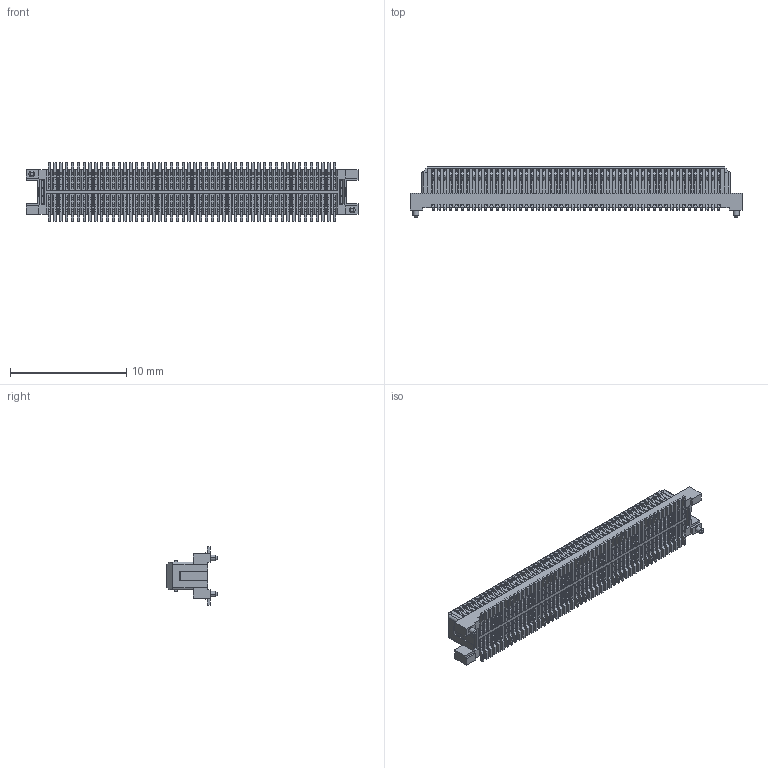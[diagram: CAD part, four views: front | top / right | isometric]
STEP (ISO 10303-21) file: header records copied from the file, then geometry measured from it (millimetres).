
FILE_DESCRIPTION((''),'2;1');
FILE_NAME('ASM0001_ASM','2011-04-06T',('12114031'),(''),'PRO/ENGINEER BY PARAMETRIC TECHNOLOGY CORPORATION, 2007450','PRO/ENGINEER BY PARAMETRIC TECHNOLOGY CORPORATION, 2007450','');
FILE_SCHEMA(('CONFIG_CONTROL_DESIGN'));
Products named in the file (1): ASM0001_ASM
Bounding box: 28.5 x 4.3 x 5 mm (x, y, z)
Volume: 255.9 mm3; surface area: 974.2 mm2
Topology: 1 solids, 1 shells, 5198 faces, 15057 edges, 9965 vertices
Faces by surface type: plane 3986, cylinder 1208, cone 4
Entity records: 169698 total; most frequent: CARTESIAN_POINT 30550, ORIENTED_EDGE 30114, DIRECTION 27762, EDGE_CURVE 15057, VECTOR 12532, LINE 12532, VERTEX_POINT 9965, AXIS2_PLACEMENT_3D 7615
